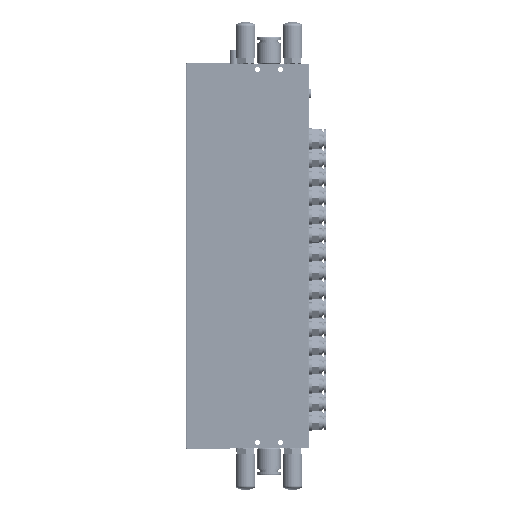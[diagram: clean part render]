
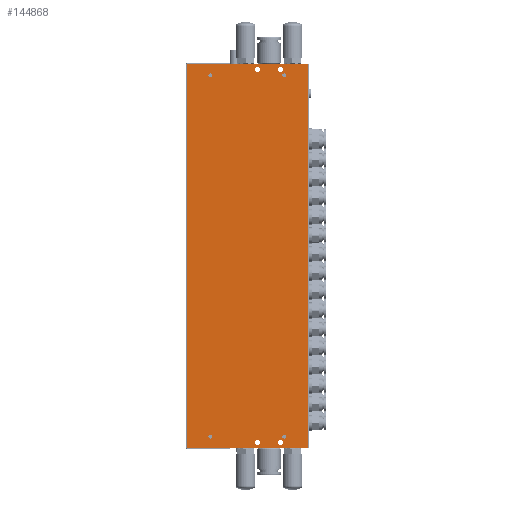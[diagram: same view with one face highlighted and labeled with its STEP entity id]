
A CAD part, front view. The second image highlights one B-rep face of the part: STEP entity #144868.
In plain terms, the highlighted planar face has unit normal (0, -1, 0).
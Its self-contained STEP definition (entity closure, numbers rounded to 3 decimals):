
#90088=LINE('',#481051,#109668);
#90095=LINE('',#481177,#109675);
#90096=LINE('',#481179,#109676);
#90097=LINE('',#481181,#109677);
#90098=LINE('',#481184,#109678);
#90099=LINE('',#481188,#109679);
#109668=VECTOR('',#384708,1.);
#109675=VECTOR('',#384745,1.);
#109676=VECTOR('',#384748,1.);
#109677=VECTOR('',#384749,1.);
#109678=VECTOR('',#384752,1.);
#109679=VECTOR('',#384755,1.);
#134514=PLANE('',#348893);
#140412=FACE_BOUND('',#174820,.T.);
#140413=FACE_BOUND('',#174821,.T.);
#140414=FACE_BOUND('',#174822,.T.);
#140415=FACE_BOUND('',#174823,.T.);
#140416=FACE_BOUND('',#174824,.T.);
#140417=FACE_BOUND('',#174825,.T.);
#140418=FACE_BOUND('',#174826,.T.);
#140419=FACE_BOUND('',#174827,.T.);
#140420=FACE_BOUND('',#174828,.T.);
#144868=ADVANCED_FACE('',(#140412,#140413,#140414,#140415,#140416,#140417,
#140418,#140419,#140420),#134514,.T.);
#174820=EDGE_LOOP('',(#213797,#213798,#213799,#213800));
#174821=EDGE_LOOP('',(#213801));
#174822=EDGE_LOOP('',(#213802));
#174823=EDGE_LOOP('',(#213803));
#174824=EDGE_LOOP('',(#213804));
#174825=EDGE_LOOP('',(#213805,#213806));
#174826=EDGE_LOOP('',(#213807,#213808));
#174827=EDGE_LOOP('',(#213809));
#174828=EDGE_LOOP('',(#213810));
#191425=CIRCLE('',#348864,1.65);
#191426=CIRCLE('',#348866,2.25);
#191428=CIRCLE('',#348869,2.25);
#191439=CIRCLE('',#348888,1.65);
#191440=CIRCLE('',#348889,1.65);
#191441=CIRCLE('',#348890,1.65);
#191442=CIRCLE('',#348891,2.25);
#191443=CIRCLE('',#348892,2.25);
#213797=ORIENTED_EDGE('',*,*,#310324,.T.);
#213798=ORIENTED_EDGE('',*,*,#310325,.T.);
#213799=ORIENTED_EDGE('',*,*,#310326,.T.);
#213800=ORIENTED_EDGE('',*,*,#310307,.F.);
#213801=ORIENTED_EDGE('',*,*,#310305,.F.);
#213802=ORIENTED_EDGE('',*,*,#310303,.F.);
#213803=ORIENTED_EDGE('',*,*,#310327,.T.);
#213804=ORIENTED_EDGE('',*,*,#310302,.T.);
#213805=ORIENTED_EDGE('',*,*,#310328,.F.);
#213806=ORIENTED_EDGE('',*,*,#310329,.F.);
#213807=ORIENTED_EDGE('',*,*,#310330,.F.);
#213808=ORIENTED_EDGE('',*,*,#310331,.F.);
#213809=ORIENTED_EDGE('',*,*,#310332,.F.);
#213810=ORIENTED_EDGE('',*,*,#310333,.F.);
#284473=VERTEX_POINT('',#481039);
#284474=VERTEX_POINT('',#481042);
#284476=VERTEX_POINT('',#481047);
#284478=VERTEX_POINT('',#481052);
#284479=VERTEX_POINT('',#481053);
#284493=VERTEX_POINT('',#481176);
#284494=VERTEX_POINT('',#481180);
#284495=VERTEX_POINT('',#481183);
#284496=VERTEX_POINT('',#481185);
#284497=VERTEX_POINT('',#481186);
#284498=VERTEX_POINT('',#481189);
#284499=VERTEX_POINT('',#481190);
#284500=VERTEX_POINT('',#481193);
#284501=VERTEX_POINT('',#481195);
#310302=EDGE_CURVE('',#284473,#284473,#191425,.T.);
#310303=EDGE_CURVE('',#284474,#284474,#191426,.T.);
#310305=EDGE_CURVE('',#284476,#284476,#191428,.T.);
#310307=EDGE_CURVE('',#284478,#284479,#90088,.T.);
#310324=EDGE_CURVE('',#284478,#284493,#90095,.T.);
#310325=EDGE_CURVE('',#284493,#284494,#90096,.T.);
#310326=EDGE_CURVE('',#284494,#284479,#90097,.T.);
#310327=EDGE_CURVE('',#284495,#284495,#191439,.T.);
#310328=EDGE_CURVE('',#284496,#284497,#90098,.T.);
#310329=EDGE_CURVE('',#284497,#284496,#191440,.T.);
#310330=EDGE_CURVE('',#284498,#284499,#90099,.T.);
#310331=EDGE_CURVE('',#284499,#284498,#191441,.T.);
#310332=EDGE_CURVE('',#284500,#284500,#191442,.T.);
#310333=EDGE_CURVE('',#284501,#284501,#191443,.T.);
#348864=AXIS2_PLACEMENT_3D('',#481038,#384692,#384693);
#348866=AXIS2_PLACEMENT_3D('',#481041,#384696,#384697);
#348869=AXIS2_PLACEMENT_3D('',#481046,#384702,#384703);
#348888=AXIS2_PLACEMENT_3D('',#481182,#384750,#384751);
#348889=AXIS2_PLACEMENT_3D('',#481187,#384753,#384754);
#348890=AXIS2_PLACEMENT_3D('',#481191,#384756,#384757);
#348891=AXIS2_PLACEMENT_3D('',#481192,#384758,#384759);
#348892=AXIS2_PLACEMENT_3D('',#481194,#384760,#384761);
#348893=AXIS2_PLACEMENT_3D('',#481196,#384762,#384763);
#384692=DIRECTION('',(0.,1.,0.));
#384693=DIRECTION('',(0.,0.,-1.));
#384696=DIRECTION('',(0.,-1.,0.));
#384697=DIRECTION('',(0.,0.,-1.));
#384702=DIRECTION('',(0.,-1.,0.));
#384703=DIRECTION('',(0.,0.,-1.));
#384708=DIRECTION('',(1.,0.,0.));
#384745=DIRECTION('',(0.,0.,-1.));
#384748=DIRECTION('',(1.,0.,0.));
#384749=DIRECTION('',(0.,0.,1.));
#384750=DIRECTION('',(0.,1.,0.));
#384751=DIRECTION('',(0.,0.,-1.));
#384752=DIRECTION('',(-1.,0.,0.));
#384753=DIRECTION('',(0.,-1.,0.));
#384754=DIRECTION('',(0.,0.,1.));
#384755=DIRECTION('',(-1.,0.,0.));
#384756=DIRECTION('',(0.,-1.,0.));
#384757=DIRECTION('',(0.,0.,1.));
#384758=DIRECTION('',(0.,-1.,0.));
#384759=DIRECTION('',(0.,0.,-1.));
#384760=DIRECTION('',(0.,-1.,0.));
#384761=DIRECTION('',(0.,0.,-1.));
#384762=DIRECTION('',(0.,-1.,0.));
#384763=DIRECTION('',(0.,0.,-1.));
#481038=CARTESIAN_POINT('',(31.5,-33.8,62.));
#481039=CARTESIAN_POINT('',(31.5,-33.8,60.35));
#481041=CARTESIAN_POINT('',(28.5,-33.8,67.));
#481042=CARTESIAN_POINT('',(28.5,-33.8,64.75));
#481046=CARTESIAN_POINT('',(8.5,-33.8,67.));
#481047=CARTESIAN_POINT('',(8.5,-33.8,64.75));
#481051=CARTESIAN_POINT('',(-52.5,-33.8,72.));
#481052=CARTESIAN_POINT('',(-51.5,-33.8,72.));
#481053=CARTESIAN_POINT('',(51.5,-33.8,72.));
#481176=CARTESIAN_POINT('',(-51.5,-33.8,-256.));
#481177=CARTESIAN_POINT('',(-51.5,-33.8,-56.));
#481179=CARTESIAN_POINT('',(-52.5,-33.8,-256.));
#481180=CARTESIAN_POINT('',(51.5,-33.8,-256.));
#481181=CARTESIAN_POINT('',(51.5,-33.8,-56.));
#481182=CARTESIAN_POINT('',(-31.5,-33.8,62.));
#481183=CARTESIAN_POINT('',(-31.5,-33.8,60.35));
#481184=CARTESIAN_POINT('',(-52.5,-33.8,-244.55));
#481185=CARTESIAN_POINT('',(32.287,-33.8,-244.55));
#481186=CARTESIAN_POINT('',(30.713,-33.8,-244.55));
#481187=CARTESIAN_POINT('',(31.5,-33.8,-246.));
#481188=CARTESIAN_POINT('',(-52.5,-33.8,-244.55));
#481189=CARTESIAN_POINT('',(-30.713,-33.8,-244.55));
#481190=CARTESIAN_POINT('',(-32.287,-33.8,-244.55));
#481191=CARTESIAN_POINT('',(-31.5,-33.8,-246.));
#481192=CARTESIAN_POINT('',(8.5,-33.8,-251.));
#481193=CARTESIAN_POINT('',(8.5,-33.8,-253.25));
#481194=CARTESIAN_POINT('',(28.5,-33.8,-251.));
#481195=CARTESIAN_POINT('',(28.5,-33.8,-253.25));
#481196=CARTESIAN_POINT('',(-52.5,-33.8,-56.));
